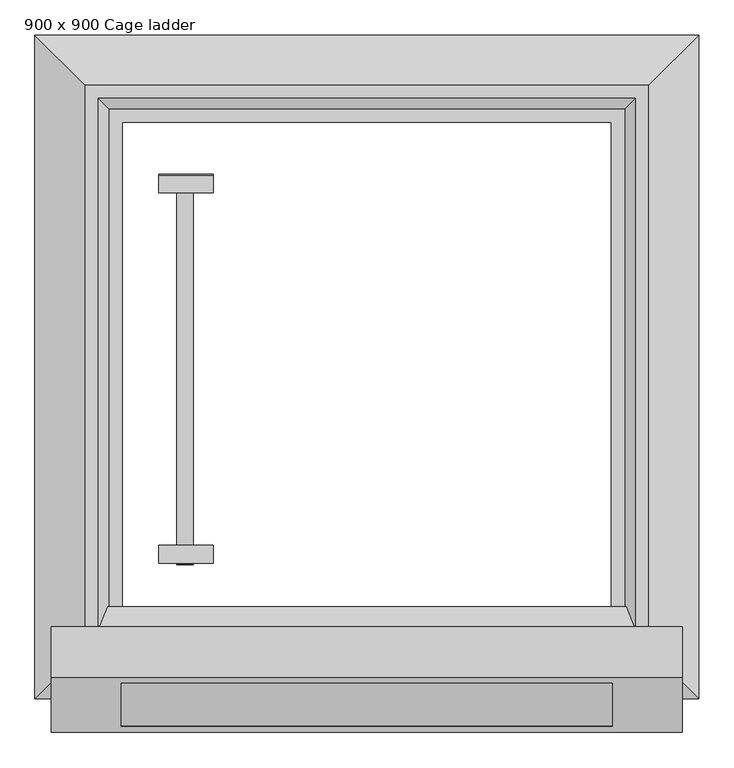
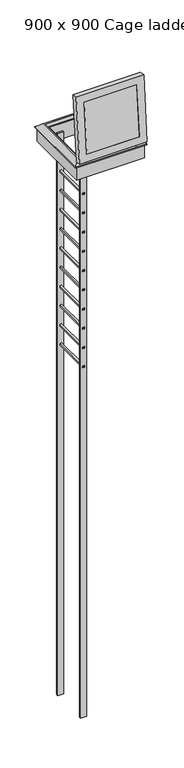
"""IFC4 building model written with IfcOpenShell, lengths in millimetres: proxy geometry, 2_Topaccess_dakluik_900x900_Staka : 900 x 900 Cage ladder."""

from ifc_helpers import new_model, si_unit, point, frame, frame_2d, origin, place, context, project, spatial, polyline, circle_curve, trimmed, segment, composite_curve, outline, extrude, faceted_brep, source, transform, mapped, element, save


def proxy_900_x_900_cage_ladder_dc90ed7f(model_context):
    return source(origin(), model_context, "Body", "SolidModel", [
        extrude(outline(polyline([(-450.3518203, -901.2697623), (-455.6416297, -931.2697623), (-483.3518203, -931.2697623), (-483.3518203, -901.2697623), (-450.3518203, -901.2697623)]), holes=[polyline([(-478.3518203, -906.2697623), (-478.3518203, -926.2697623), (-459.8371279, -926.2697623), (-456.3105883, -906.2697623), (-478.3518203, -906.2697623)])]), frame((0.0, -130.7856705, 0.0), z_axis=(0.0, 1.0, 0.0), x_axis=(0.0, 0.0, 1.0)), (0.0, 0.0, 1.0), 719.9860439),
        extrude(outline(polyline([(-450.3518203, -901.2697623), (-455.6416297, -931.2697623), (-483.3518203, -931.2697623), (-483.3518203, -901.2697623), (-450.3518203, -901.2697623)]), holes=[polyline([(-478.3518203, -906.2697623), (-478.3518203, -926.2697623), (-459.8371279, -926.2697623), (-456.3105883, -906.2697623), (-478.3518203, -906.2697623)])]), frame((0.0, -130.7856705, 0.0), z_axis=(0.0, 1.0, 0.0), x_axis=(0.0, 0.0, 1.0)), (0.0, 0.0, 1.0), 719.9860439),
        extrude(outline(polyline([(-100.3518203, -901.2697623), (-105.6416297, -931.2697623), (-133.3518203, -931.2697623), (-133.3518203, -901.2697623), (-100.3518203, -901.2697623)]), holes=[polyline([(-128.3518203, -906.2697623), (-128.3518203, -926.2697623), (-109.8371279, -926.2697623), (-106.3105883, -906.2697623), (-128.3518203, -906.2697623)])]), frame((0.0, -130.7856705, 0.0), z_axis=(0.0, 1.0, 0.0), x_axis=(0.0, 0.0, 1.0)), (0.0, 0.0, 1.0), 719.9860439),
        extrude(outline(polyline([(-3600.3518203, -901.2697623), (-3605.6416297, -931.2697623), (-3633.3518203, -931.2697623), (-3633.3518203, -901.2697623), (-3600.3518203, -901.2697623)]), holes=[polyline([(-3628.3518203, -906.2697623), (-3628.3518203, -926.2697623), (-3609.8371279, -926.2697623), (-3606.3105883, -906.2697623), (-3628.3518203, -906.2697623)])]), frame((0.0, -130.7856705, 0.0), z_axis=(0.0, 1.0, 0.0), x_axis=(0.0, 0.0, 1.0)), (0.0, 0.0, 1.0), 719.9860439),
        extrude(outline(polyline([(-3250.3518203, -901.2697623), (-3255.6416297, -931.2697623), (-3283.3518203, -931.2697623), (-3283.3518203, -901.2697623), (-3250.3518203, -901.2697623)]), holes=[polyline([(-3278.3518203, -906.2697623), (-3278.3518203, -926.2697623), (-3259.8371279, -926.2697623), (-3256.3105883, -906.2697623), (-3278.3518203, -906.2697623)])]), frame((0.0, -130.7856705, 0.0), z_axis=(0.0, 1.0, 0.0), x_axis=(0.0, 0.0, 1.0)), (0.0, 0.0, 1.0), 719.9860439),
        extrude(outline(polyline([(-2900.3518203, -901.2697623), (-2905.6416297, -931.2697623), (-2933.3518203, -931.2697623), (-2933.3518203, -901.2697623), (-2900.3518203, -901.2697623)]), holes=[polyline([(-2928.3518203, -906.2697623), (-2928.3518203, -926.2697623), (-2909.8371279, -926.2697623), (-2906.3105883, -906.2697623), (-2928.3518203, -906.2697623)])]), frame((0.0, -130.7856705, 0.0), z_axis=(0.0, 1.0, 0.0), x_axis=(0.0, 0.0, 1.0)), (0.0, 0.0, 1.0), 719.9860439),
        extrude(outline(polyline([(-2550.3518203, -901.2697623), (-2555.6416297, -931.2697623), (-2583.3518203, -931.2697623), (-2583.3518203, -901.2697623), (-2550.3518203, -901.2697623)]), holes=[polyline([(-2578.3518203, -906.2697623), (-2578.3518203, -926.2697623), (-2559.8371279, -926.2697623), (-2556.3105883, -906.2697623), (-2578.3518203, -906.2697623)])]), frame((0.0, -130.7856705, 0.0), z_axis=(0.0, 1.0, 0.0), x_axis=(0.0, 0.0, 1.0)), (0.0, 0.0, 1.0), 719.9860439),
        extrude(outline(polyline([(-2200.3518203, -901.2697623), (-2205.6416297, -931.2697623), (-2233.3518203, -931.2697623), (-2233.3518203, -901.2697623), (-2200.3518203, -901.2697623)]), holes=[polyline([(-2228.3518203, -906.2697623), (-2228.3518203, -926.2697623), (-2209.8371279, -926.2697623), (-2206.3105883, -906.2697623), (-2228.3518203, -906.2697623)])]), frame((0.0, -130.7856705, 0.0), z_axis=(0.0, 1.0, 0.0), x_axis=(0.0, 0.0, 1.0)), (0.0, 0.0, 1.0), 719.9860439),
        extrude(outline(polyline([(-1850.3518203, -901.2697623), (-1855.6416297, -931.2697623), (-1883.3518203, -931.2697623), (-1883.3518203, -901.2697623), (-1850.3518203, -901.2697623)]), holes=[polyline([(-1878.3518203, -906.2697623), (-1878.3518203, -926.2697623), (-1859.8371279, -926.2697623), (-1856.3105883, -906.2697623), (-1878.3518203, -906.2697623)])]), frame((0.0, -130.7856705, 0.0), z_axis=(0.0, 1.0, 0.0), x_axis=(0.0, 0.0, 1.0)), (0.0, 0.0, 1.0), 719.9860439),
        extrude(outline(polyline([(-1150.3518203, -901.2697623), (-1155.6416297, -931.2697623), (-1183.3518203, -931.2697623), (-1183.3518203, -901.2697623), (-1150.3518203, -901.2697623)]), holes=[polyline([(-1178.3518203, -906.2697623), (-1178.3518203, -926.2697623), (-1159.8371279, -926.2697623), (-1156.3105883, -906.2697623), (-1178.3518203, -906.2697623)])]), frame((0.0, -130.7856705, 0.0), z_axis=(0.0, 1.0, 0.0), x_axis=(0.0, 0.0, 1.0)), (0.0, 0.0, 1.0), 719.9860439),
        extrude(outline(polyline([(-1500.3518203, -901.2697623), (-1505.6416297, -931.2697623), (-1533.3518203, -931.2697623), (-1533.3518203, -901.2697623), (-1500.3518203, -901.2697623)]), holes=[polyline([(-1528.3518203, -906.2697623), (-1528.3518203, -926.2697623), (-1509.8371279, -926.2697623), (-1506.3105883, -906.2697623), (-1528.3518203, -906.2697623)])]), frame((0.0, -130.7856705, 0.0), z_axis=(0.0, 1.0, 0.0), x_axis=(0.0, 0.0, 1.0)), (0.0, 0.0, 1.0), 719.9860439),
        extrude(outline(polyline([(-800.3518203, -901.2697623), (-805.6416297, -931.2697623), (-833.3518203, -931.2697623), (-833.3518203, -901.2697623), (-800.3518203, -901.2697623)]), holes=[polyline([(-828.3518203, -906.2697623), (-828.3518203, -926.2697623), (-809.8371279, -926.2697623), (-806.3105883, -906.2697623), (-828.3518203, -906.2697623)])]), frame((0.0, -130.7856705, 0.0), z_axis=(0.0, 1.0, 0.0), x_axis=(0.0, 0.0, 1.0)), (0.0, 0.0, 1.0), 719.9860439),
        extrude(outline(polyline([(-864.1186991, -95.7856705), (-864.1186991, -128.7856705), (-965.0960873, -128.7856705), (-965.0960873, -95.7856705), (-864.1186991, -95.7856705)])), frame((0.0, 0.0, -10000.0), z_axis=(0.0, 0.0, 1.0), x_axis=(1.0, 0.0, 0.0)), (0.0, 0.0, 1.0), 10220.0),
        extrude(outline(polyline([(554.2143295, -10000.0), (554.2143295, 220.0), (586.2578239, 220.0), (586.2578239, 25.0), (589.2003734, 25.0), (589.2003734, 0.0), (587.2143295, 0.0), (587.2143295, -10000.0), (554.2143295, -10000.0)])), frame((-965.0960873, 0.0, 0.0), z_axis=(1.0, 0.0, 0.0), x_axis=(0.0, 1.0, 0.0)), (0.0, 0.0, 1.0), 100.9773883),
        extrude(outline(composite_curve([segment(trimmed(circle_curve(frame_2d((-359.3648131, 286.8367213)), 7.5311041), [point((-365.2456174, 282.1320778))], [point((-366.7901944, 288.0941957))], False, "CARTESIAN"), True, "CONTINUOUS"), segment(polyline([(-366.7901944, 288.0941957), (-353.3118588, 332.1798449)]), True, "CONTINUOUS"), segment(trimmed(circle_curve(frame_2d((-349.4849442, 331.0098397)), 4.0017731), [point((-353.3118588, 332.1798449))], [point((-347.076617, 327.8138816))], False, "CARTESIAN"), True, "CONTINUOUS"), segment(trimmed(circle_curve(frame_2d((-344.5716793, 325.8942569)), 3.1558949), [point((-347.076617, 327.8138816))], [point((-344.7636324, 322.7442051))], True, "CARTESIAN"), True, "CONTINUOUS"), segment(polyline([(-344.7636324, 322.7442051), (-309.4270274, 309.7007017), (-356.9108622, 271.7136338), (-365.2456174, 282.1320778)]), True, "CONTINUOUS")], self_intersect=False)), frame((-1025.8118006, 0.0, 0.0), z_axis=(1.0, 0.0, 0.0), x_axis=(0.0, 1.0, 0.0)), (0.0, 0.0, 1.0), 26.9967765),
        extrude(outline(composite_curve([segment(trimmed(circle_curve(frame_2d((-359.3648131, 286.8367213)), 7.5311041), [point((-365.2456174, 282.1320778))], [point((-366.7901944, 288.0941957))], False, "CARTESIAN"), True, "CONTINUOUS"), segment(polyline([(-366.7901944, 288.0941957), (-353.3118588, 332.1798449)]), True, "CONTINUOUS"), segment(trimmed(circle_curve(frame_2d((-349.4849442, 331.0098397)), 4.0017731), [point((-353.3118588, 332.1798449))], [point((-347.076617, 327.8138816))], False, "CARTESIAN"), True, "CONTINUOUS"), segment(trimmed(circle_curve(frame_2d((-344.5716793, 325.8942569)), 3.1558949), [point((-347.076617, 327.8138816))], [point((-344.7636324, 322.7442051))], True, "CARTESIAN"), True, "CONTINUOUS"), segment(polyline([(-344.7636324, 322.7442051), (-309.4270274, 309.7007017), (-356.9108622, 271.7136338), (-365.2456174, 282.1320778)]), True, "CONTINUOUS")], self_intersect=False)), frame((-165.3386759, 0.0, 0.0), z_axis=(1.0, 0.0, 0.0), x_axis=(0.0, 1.0, 0.0)), (0.0, 0.0, 1.0), 30.3797811),
        faceted_brep([(-61.2697623, 753.4470955, 328.0), (30.7302377, 845.4470955, 254.4), (-1193.2697623, 845.4470955, 254.4), (-1101.2697623, 753.4470955, 328.0), (-105.2697623, 709.4470955, 282.0), (-85.7439208, 728.9729371, 328.0), (-1076.7956039, 728.9729371, 328.0), (-1057.2697623, 709.4470955, 282.0), (-131.2697623, 683.4470955, 0.0), (-131.2697623, 683.4470955, 282.0), (-1031.2697623, 683.4470955, 282.0), (-1031.2697623, 683.4470955, 0.0), (4.7302377, 819.4470955, 240.0), (4.7302377, 819.4470955, 0.0), (-1167.2697623, 819.4470955, 0.0), (-1167.2697623, 819.4470955, 240.0), (30.7302377, 845.4470955, 240.0), (-1193.2697623, 845.4470955, 240.0), (-1193.2697623, -378.5529045, 254.4), (-1101.2697623, -286.5529045, 328.0), (-1076.7956039, -262.078746, 328.0), (-1057.2697623, -242.5529045, 282.0), (-1031.2697623, -216.5529045, 282.0), (-1031.2697623, -216.5529045, 0.0), (-1167.2697623, -352.5529045, 0.0), (-1167.2697623, -352.5529045, 240.0), (-1193.2697623, -378.5529045, 240.0), (30.7302377, -378.5529045, 254.4), (-61.2697623, -286.5529045, 328.0), (-85.7439208, -262.078746, 328.0), (-105.2697623, -242.5529045, 282.0), (-131.2697623, -216.5529045, 282.0), (-131.2697623, -216.5529045, 0.0), (4.7302377, -352.5529045, 0.0), (4.7302377, -352.5529045, 240.0), (30.7302377, -378.5529045, 240.0)], [[[0, 1, 2, 3]], [[4, 5, 6, 7]], [[8, 9, 10, 11]], [[12, 13, 14, 15]], [[1, 16, 17, 2]], [[3, 2, 18, 19]], [[7, 6, 20, 21]], [[11, 10, 22, 23]], [[15, 14, 24, 25]], [[2, 17, 26, 18]], [[19, 18, 27, 28]], [[21, 20, 29, 30]], [[23, 22, 31, 32]], [[25, 24, 33, 34]], [[18, 26, 35, 27]], [[28, 27, 1, 0]], [[3, 19, 28, 0], [5, 29, 20, 6]], [[30, 29, 5, 4]], [[7, 21, 30, 4], [9, 31, 22, 10]], [[32, 31, 9, 8]], [[13, 33, 24, 14], [11, 23, 32, 8]], [[34, 33, 13, 12]], [[16, 35, 26, 17], [15, 25, 34, 12]], [[27, 35, 16, 1]]]),
        extrude(outline(polyline([(0.0, -905.7), (0.0, 0.0), (139.4, 0.0), (139.4, -905.7), (0.0, -905.7)])), frame((-1033.9725908, -428.8183427, 470.0146001), z_axis=(0.0, 0.08715574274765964, 0.9961946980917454), x_axis=(0.0, 0.9961946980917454, -0.08715574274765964)), (0.0, 0.0, 1.0), 901.0),
        faceted_brep([(-128.2725908, -211.4214776, 1355.4365126), (-128.2725908, -350.2910185, 1367.5860231), (-1033.9725908, -350.2910185, 1367.5860231), (-1033.9725908, -211.4214776, 1355.4365126), (-85.2725908, -253.8972146, 1402.3169111), (-102.8725908, -209.2077217, 1380.7398579), (-1059.3725908, -209.2077217, 1380.7398579), (-1076.9725908, -253.8972146, 1402.3169111), (0.7274092, -339.0479277, 1496.0951392), (0.7274092, -246.4018208, 1487.9896551), (-1162.9725908, -246.4018208, 1487.9896551), (-1162.9725908, -339.0479277, 1496.0951392), (-1033.9725908, -428.8183427, 470.0146001), (-1033.9725908, -289.9488018, 457.8650896), (-1059.3725908, -292.1625577, 432.5617443), (-1076.9725908, -339.9199327, 419.072744), (-1162.9725908, -347.4153266, 333.4), (-1162.9725908, -440.0614335, 341.5054841), (-128.2725908, -428.8183427, 470.0146001), (-128.2725908, -289.9488018, 457.8650896), (-102.8725908, -292.1625577, 432.5617443), (-85.2725908, -339.9199327, 419.072744), (0.7274092, -347.4153266, 333.4), (0.7274092, -440.0614335, 341.5054841)], [[[0, 1, 2, 3]], [[4, 5, 6, 7]], [[8, 9, 10, 11]], [[3, 2, 12, 13]], [[7, 6, 14, 15]], [[11, 10, 16, 17]], [[13, 12, 18, 19]], [[15, 14, 20, 21]], [[17, 16, 22, 23]], [[19, 18, 1, 0]], [[5, 20, 14, 6], [3, 13, 19, 0]], [[21, 20, 5, 4]], [[9, 22, 16, 10], [7, 15, 21, 4]], [[23, 22, 9, 8]], [[11, 17, 23, 8], [1, 18, 12, 2]]]),
    ])


if __name__ == "__main__":
    model = new_model("IFC4")
    model_context = context("Model", 3, world=origin())
    ifc_project = project(units=[si_unit("LENGTHUNIT", "METRE", prefix="MILLI")], contexts=[model_context])
    site = spatial("IfcSite", under=ifc_project)
    building = spatial("IfcBuilding", under=site)
    placement = place(None, origin())
    proxy_900_x_900_cage_ladder_shape = proxy_900_x_900_cage_ladder_dc90ed7f(model_context)
    element("IfcBuildingElementProxy", 1, Name="2_Topaccess_dakluik_900x900_Staka : 900 x 900 Cage ladder", ObjectType="2_Topaccess_dakluik_900x900_Staka : 900 x 900 Cage ladder", at=placement, inside=building, context=model_context, shape_type="MappedRepresentation", body=[
        mapped(proxy_900_x_900_cage_ladder_shape, transform((0.0, 0.0, 0.0), x_axis=(1.0, 0.0, 0.0), y_axis=(0.0, 1.0, 0.0), z_axis=(0.0, 0.0, 1.0))),
    ])
    save(model, "model.ifc")
